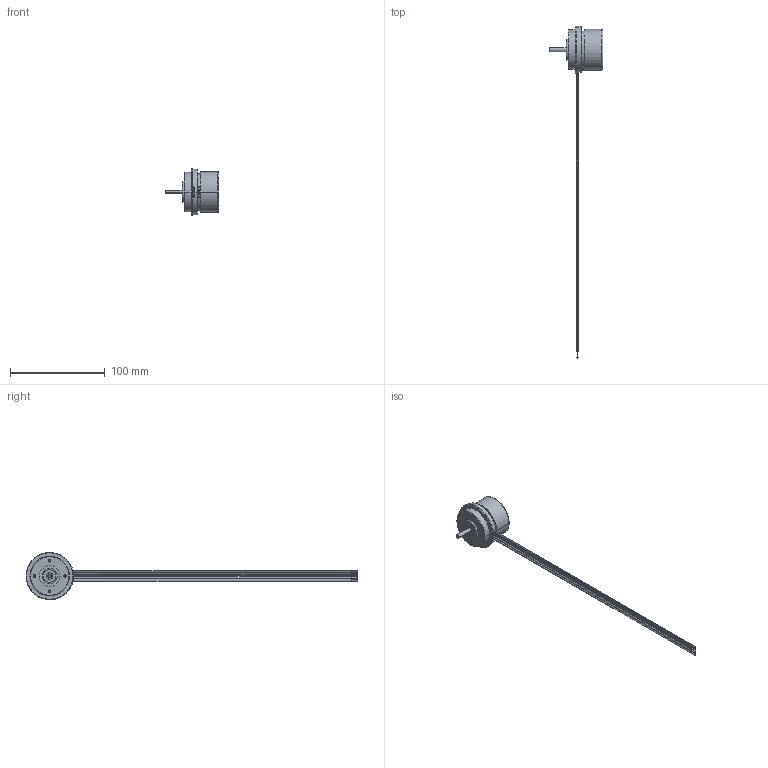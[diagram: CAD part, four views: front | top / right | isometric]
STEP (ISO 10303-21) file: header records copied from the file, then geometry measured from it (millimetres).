
FILE_DESCRIPTION((''),'2;1');
FILE_NAME('1011611','2016-10-10T',('mmagpetk'),(''),'CREO PARAMETRIC BY PTC INC, 2016050','CREO PARAMETRIC BY PTC INC, 2016050','');
FILE_SCHEMA(('CONFIG_CONTROL_DESIGN'));
Length unit declared in the file: millimetre
Products named in the file (1): 1011611
Bounding box: 56.8 x 350 x 50 mm (x, y, z)
Volume: 57530.1 mm3; surface area: 17312.5 mm2
Topology: 1 solids, 1 shells, 114 faces, 244 edges, 150 vertices
Faces by surface type: cylinder 58, plane 28, cone 18, torus 10
Entity records: 3268 total; most frequent: CARTESIAN_POINT 626, DIRECTION 592, ORIENTED_EDGE 472, AXIS2_PLACEMENT_3D 256, EDGE_CURVE 236, VERTEX_POINT 150, CIRCLE 142, EDGE_LOOP 140
